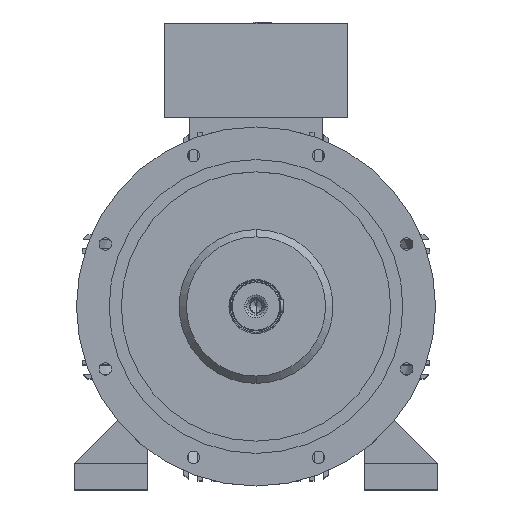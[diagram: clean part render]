
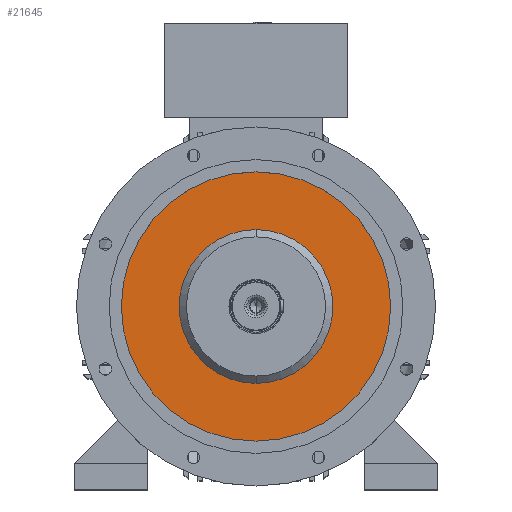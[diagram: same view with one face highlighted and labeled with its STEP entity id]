
A CAD part, top view. The second image highlights one B-rep face of the part: STEP entity #21645.
In plain terms, the highlighted planar face has unit normal (0, 0, 1).
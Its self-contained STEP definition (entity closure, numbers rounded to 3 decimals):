
#109 = DIRECTION ( 'NONE',  ( 0., 1., 0. ) ) ;
#196 = CIRCLE ( 'NONE', #5892, 117.8 ) ;
#921 = VERTEX_POINT ( 'NONE', #10366 ) ;
#2376 = ORIENTED_EDGE ( 'NONE', *, *, #13552, .T. ) ;
#3112 = CIRCLE ( 'NONE', #25511, 117.8 ) ;
#4342 = CARTESIAN_POINT ( 'NONE',  ( 0., 0., 386.3 ) ) ;
#4846 = DIRECTION ( 'NONE',  ( 0., 0., 1. ) ) ;
#5802 = CARTESIAN_POINT ( 'NONE',  ( -206.25, 0., 386.3 ) ) ;
#5887 = FACE_OUTER_BOUND ( 'NONE', #24622, .T. ) ;
#5892 = AXIS2_PLACEMENT_3D ( 'NONE', #4342, #27759, #11503 ) ;
#6520 = DIRECTION ( 'NONE',  ( 0., 0., 1. ) ) ;
#6529 = VERTEX_POINT ( 'NONE', #5802 ) ;
#8268 = CIRCLE ( 'NONE', #16605, 206.25 ) ;
#8572 = CIRCLE ( 'NONE', #10470, 206.25 ) ;
#8905 = DIRECTION ( 'NONE',  ( 1., 0., 0. ) ) ;
#9553 = DIRECTION ( 'NONE',  ( 0., 0., -1. ) ) ;
#10366 = CARTESIAN_POINT ( 'NONE',  ( 206.25, 0., 386.3 ) ) ;
#10470 = AXIS2_PLACEMENT_3D ( 'NONE', #21461, #4846, #21055 ) ;
#11503 = DIRECTION ( 'NONE',  ( 0., 1., 0. ) ) ;
#11585 = VERTEX_POINT ( 'NONE', #19357 ) ;
#11806 = DIRECTION ( 'NONE',  ( 0., 0., 1. ) ) ;
#12079 = EDGE_CURVE ( 'NONE', #11585, #27870, #3112, .T. ) ;
#12499 = EDGE_CURVE ( 'NONE', #6529, #921, #8268, .T. ) ;
#13552 = EDGE_CURVE ( 'NONE', #921, #6529, #8572, .T. ) ;
#13884 = PLANE ( 'NONE',  #29077 ) ;
#15711 = ORIENTED_EDGE ( 'NONE', *, *, #12499, .T. ) ;
#16605 = AXIS2_PLACEMENT_3D ( 'NONE', #18771, #11806, #23522 ) ;
#17864 = ORIENTED_EDGE ( 'NONE', *, *, #23504, .T. ) ;
#17956 = EDGE_LOOP ( 'NONE', ( #17864, #27847 ) ) ;
#18771 = CARTESIAN_POINT ( 'NONE',  ( 0., 0., 386.3 ) ) ;
#18854 = CARTESIAN_POINT ( 'NONE',  ( 0., 117.8, 386.3 ) ) ;
#19357 = CARTESIAN_POINT ( 'NONE',  ( 0., -117.8, 386.3 ) ) ;
#21055 = DIRECTION ( 'NONE',  ( -1., 0., 0. ) ) ;
#21461 = CARTESIAN_POINT ( 'NONE',  ( 0., 0., 386.3 ) ) ;
#21645 = ADVANCED_FACE ( 'NONE', ( #5887, #26243 ), #13884, .T. ) ;
#23017 = CARTESIAN_POINT ( 'NONE',  ( 0., 206.25, 386.3 ) ) ;
#23504 = EDGE_CURVE ( 'NONE', #27870, #11585, #196, .T. ) ;
#23522 = DIRECTION ( 'NONE',  ( -1., 0., 0. ) ) ;
#24569 = CARTESIAN_POINT ( 'NONE',  ( 0., 0., 386.3 ) ) ;
#24622 = EDGE_LOOP ( 'NONE', ( #15711, #2376 ) ) ;
#25511 = AXIS2_PLACEMENT_3D ( 'NONE', #24569, #9553, #109 ) ;
#26243 = FACE_BOUND ( 'NONE', #17956, .T. ) ;
#27759 = DIRECTION ( 'NONE',  ( 0., 0., -1. ) ) ;
#27847 = ORIENTED_EDGE ( 'NONE', *, *, #12079, .T. ) ;
#27870 = VERTEX_POINT ( 'NONE', #18854 ) ;
#29077 = AXIS2_PLACEMENT_3D ( 'NONE', #23017, #6520, #8905 ) ;
